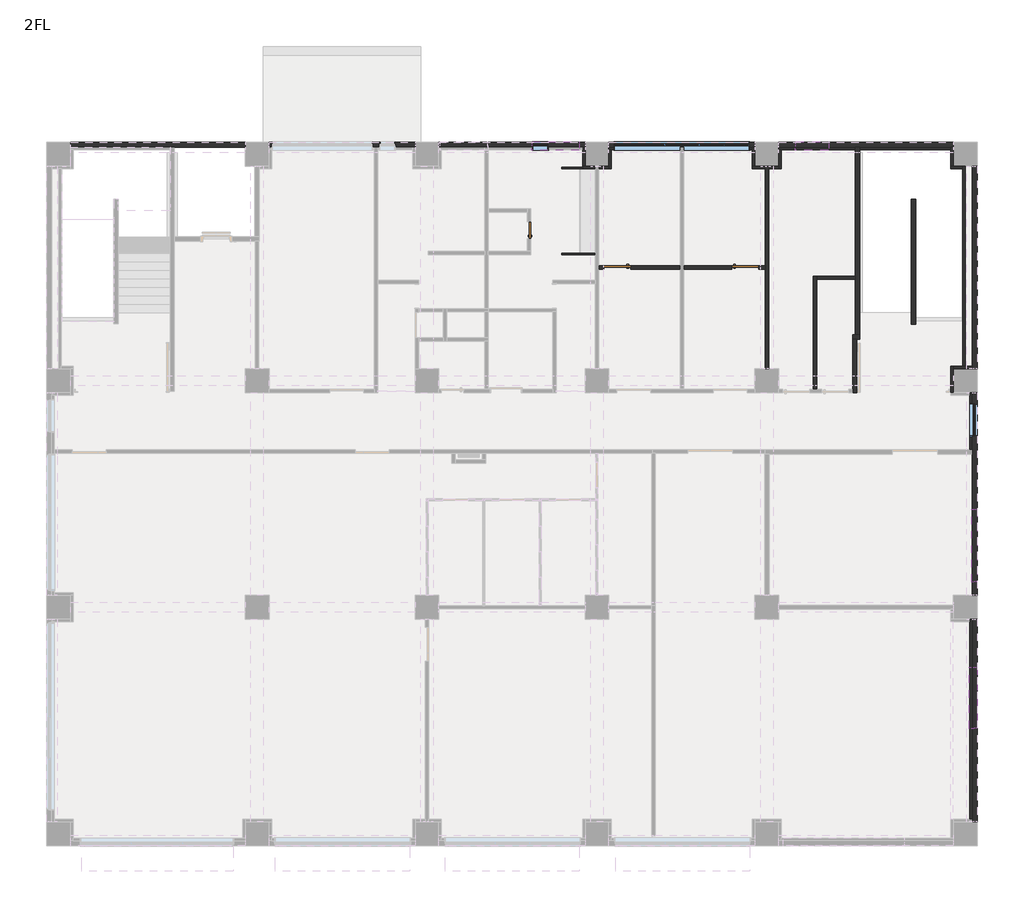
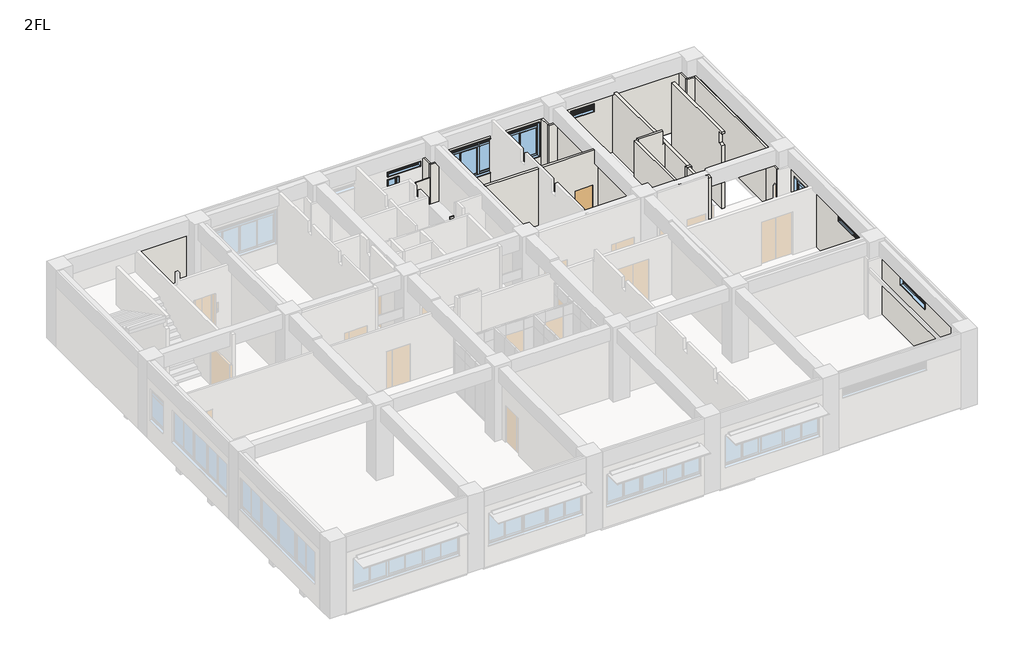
# One storey, part 4 of 7: 27 walls, 7 windows, 3 doors.
"""IFC4 building model written with IfcOpenShell, lengths in millimetres."""

from ifc_helpers import new_model, si_unit, frame, origin, place, context, project, spatial, polyline, outline, extrude, faceted_brep, transform, mapped, element, save
from components import door_0812e9ce, door_7e7a0efd, door_cb1f44da, ag_01_ca6aedc7, ag_04_25b0d088, ag_06_22dadb70, ag_07_7ad97628, aw4_4580bdda, aw6a_a2a86f3e, aw7_750fac0c

model = new_model("IFC4")

# Units and contexts
model_context = context("Model", 3, world=origin())
ifc_project = project(units=[si_unit("LENGTHUNIT", "METRE", prefix="MILLI")], contexts=[model_context])

# Site, building, storey
site = spatial("IfcSite", under=ifc_project)
building = spatial("IfcBuilding", under=site)
storey = spatial("IfcBuildingStorey", under=building, Name="2FL", Elevation=4100.0)

# Doors
placement = place(None, origin())
door_shape = door_0812e9ce(model_context)
element("IfcDoor", 1, ObjectType="営_片開き扉 : LD3 950*2000", at=placement, inside=storey, context=model_context, shape_type="MappedRepresentation", body=[
    mapped(door_shape, transform((19715.0, 20000.0, 4100.0), x_axis=(-1.0, 0.0, 0.0), y_axis=(0.0, -1.0, 0.0), z_axis=(0.0, 0.0, 1.0))),
])
door_2_shape = door_7e7a0efd(model_context)
element("IfcDoor", 2, ObjectType="営_片開き扉 : LD3 950*2000", at=placement, inside=storey, context=model_context, shape_type="MappedRepresentation", body=[
    mapped(door_2_shape, transform((24230.0, 20000.0, 4100.0), x_axis=(1.0, 0.0, 0.0), y_axis=(0.0, 1.0, 0.0), z_axis=(0.0, 0.0, 1.0))),
])
door_3_shape = door_cb1f44da(model_context)
element("IfcDoor", 3, ObjectType="営_片開き扉 : SD7 600*2000", at=placement, inside=storey, context=model_context, shape_type="MappedRepresentation", body=[
    mapped(door_3_shape, transform((16600.0, 21310.0, 4100.0), x_axis=(0.0, 1.0, 0.0), y_axis=(-1.0, 0.0, 0.0), z_axis=(0.0, 0.0, 1.0))),
])

# Walls
element("IfcWall", 4, ObjectType="(外壁)RC150+20", at=placement, inside=storey, context=model_context, shape_type="Brep", body=[
    faceted_brep([(420.0, 24250.0, 4000.0), (6580.0, 24250.0, 4000.0), (6580.0, 24250.0, 7250.0), (420.0, 24250.0, 7250.0), (6580.0, 24420.0, 4000.0), (420.0, 24420.0, 4000.0), (420.0, 24420.0, 7250.0), (6580.0, 24420.0, 7250.0)], [[[0, 1, 2, 3]], [[4, 5, 6, 7]], [[4, 1, 0, 5]], [[1, 4, 7, 2]], [[5, 0, 3, 6]], [[3, 2, 7, 6]]]),
    faceted_brep([(12580.0, 24250.0, 7250.0), (7420.0, 24250.0, 7250.0), (7420.0, 24250.0, 4000.0), (11200.0, 24250.0, 4000.0), (11200.0, 24250.0, 4090.0), (12580.0, 24250.0, 4090.0), (11310.0, 24250.0, 5165.0), (11310.0, 24250.0, 7020.0), (11890.0, 24250.0, 7020.0), (11890.0, 24250.0, 5165.0), (11090.0, 24250.0, 7020.0), (11090.0, 24250.0, 5165.0), (7510.0, 24250.0, 5165.0), (7510.0, 24250.0, 7020.0), (12580.0, 24420.0, 4000.0), (7420.0, 24420.0, 4000.0), (7420.0, 24420.0, 7250.0), (12580.0, 24420.0, 7250.0), (11340.0, 24420.0, 5075.0), (11860.0, 24420.0, 5075.0), (11860.0, 24420.0, 6995.0), (11340.0, 24420.0, 6995.0), (7540.0, 24420.0, 5075.0), (11060.0, 24420.0, 5075.0), (11060.0, 24420.0, 6995.0), (7540.0, 24420.0, 6995.0), (12580.0, 24335.0, 4000.0), (11200.0, 24335.0, 4000.0), (11310.0, 24290.0, 5165.0), (11310.0, 24290.0, 7020.0), (11890.0, 24290.0, 7020.0), (11890.0, 24290.0, 5165.0), (11880.0, 24290.0, 5165.0), (11320.0, 24290.0, 5165.0), (11320.0, 24290.0, 7015.0), (11880.0, 24290.0, 7015.0), (11320.0, 24290.0, 5095.0), (11320.0, 24360.0, 5084.2307692), (11320.0, 24360.0, 7015.0), (11880.0, 24290.0, 5095.0), (11880.0, 24360.0, 7015.0), (11880.0, 24360.0, 5084.2307692), (11860.0, 24360.0, 5084.2307692), (11340.0, 24360.0, 5084.2307692), (11340.0, 24360.0, 6995.0), (11860.0, 24360.0, 6995.0), (11090.0, 24290.0, 7020.0), (11090.0, 24290.0, 5165.0), (7510.0, 24290.0, 5165.0), (7510.0, 24290.0, 7020.0), (11080.0, 24290.0, 5165.0), (7520.0, 24290.0, 5165.0), (7520.0, 24290.0, 7015.0), (11080.0, 24290.0, 7015.0), (11080.0, 24360.0, 7015.0), (11080.0, 24360.0, 5084.2307692), (11080.0, 24290.0, 5095.0), (7520.0, 24290.0, 5095.0), (7520.0, 24360.0, 5084.2307692), (7520.0, 24360.0, 7015.0), (11060.0, 24360.0, 5084.2307692), (7540.0, 24360.0, 5084.2307692), (7540.0, 24360.0, 6995.0), (11060.0, 24360.0, 6995.0), (12580.0, 24335.0, 4090.0), (11200.0, 24335.0, 4090.0)], [[[0, 1, 2, 3, 4, 5], [6, 7, 8, 9], [10, 11, 12, 13]], [[14, 15, 16, 17], [18, 19, 20, 21], [22, 23, 24, 25]], [[2, 15, 14, 26, 27, 3]], [[28, 29, 7, 6]], [[30, 31, 9, 8]], [[32, 33, 28, 6, 9, 31]], [[29, 28, 33, 34, 35, 32, 31, 30]], [[29, 30, 8, 7]], [[34, 33, 36, 37, 38]], [[39, 32, 35, 40, 41]], [[39, 41, 42, 19, 18, 43, 37, 36]], [[38, 37, 43, 44, 45, 42, 41, 40]], [[34, 38, 40, 35]], [[32, 39, 36, 33]], [[44, 43, 18, 21]], [[19, 42, 45, 20]], [[44, 21, 20, 45]], [[46, 47, 11, 10]], [[48, 49, 13, 12]], [[11, 47, 50, 51, 48, 12]], [[47, 46, 49, 48, 51, 52, 53, 50]], [[46, 10, 13, 49]], [[50, 53, 54, 55, 56]], [[52, 51, 57, 58, 59]], [[56, 55, 60, 23, 22, 61, 58, 57]], [[55, 54, 59, 58, 61, 62, 63, 60]], [[53, 52, 59, 54]], [[51, 50, 56, 57]], [[23, 60, 63, 24]], [[61, 22, 25, 62]], [[63, 62, 25, 24]], [[15, 2, 1, 16]], [[14, 17, 0, 5, 64, 26]], [[1, 0, 17, 16]], [[4, 65, 64, 5]], [[65, 4, 3, 27]], [[64, 65, 27, 26]]]),
    faceted_brep([(18580.0, 24250.0, 7250.0), (13420.0, 24250.0, 7250.0), (13420.0, 24250.0, 4090.0), (18580.0, 24250.0, 4090.0), (18380.0, 24250.0, 7035.0), (18380.0, 24250.0, 6765.0), (16700.0, 24250.0, 6765.0), (16700.0, 24250.0, 7035.0), (15140.0, 24250.0, 7035.0), (15140.0, 24250.0, 6765.0), (13460.0, 24250.0, 6765.0), (13460.0, 24250.0, 7035.0), (16710.0, 24250.0, 5165.0), (16710.0, 24250.0, 6620.0), (17290.0, 24250.0, 6620.0), (17290.0, 24250.0, 5165.0), (18580.0, 24420.0, 4000.0), (13420.0, 24420.0, 4000.0), (13420.0, 24420.0, 7250.0), (18580.0, 24420.0, 7250.0), (16730.0, 24420.0, 6675.0), (18350.0, 24420.0, 6675.0), (18350.0, 24420.0, 7010.0), (16730.0, 24420.0, 7010.0), (13490.0, 24420.0, 6675.0), (15110.0, 24420.0, 6675.0), (15110.0, 24420.0, 7010.0), (13490.0, 24420.0, 7010.0), (16740.0, 24420.0, 5075.0), (17260.0, 24420.0, 5075.0), (17260.0, 24420.0, 6595.0), (16740.0, 24420.0, 6595.0), (18580.0, 24335.0, 4000.0), (13420.0, 24335.0, 4000.0), (18380.0, 24290.0, 7035.0), (18380.0, 24290.0, 6765.0), (16700.0, 24290.0, 6765.0), (16700.0, 24290.0, 7035.0), (18370.0, 24290.0, 6765.0), (16710.0, 24290.0, 6765.0), (16710.0, 24290.0, 7030.0), (18370.0, 24290.0, 7030.0), (18370.0, 24360.0, 7030.0), (18370.0, 24360.0, 6684.2307692), (18370.0, 24290.0, 6695.0), (16710.0, 24290.0, 6695.0), (16710.0, 24360.0, 6684.2307692), (16710.0, 24360.0, 7030.0), (18350.0, 24360.0, 6684.2307692), (16730.0, 24360.0, 6684.2307692), (16730.0, 24360.0, 7010.0), (18350.0, 24360.0, 7010.0), (15140.0, 24290.0, 7035.0), (15140.0, 24290.0, 6765.0), (13460.0, 24290.0, 6765.0), (13460.0, 24290.0, 7035.0), (15130.0, 24290.0, 6765.0), (13470.0, 24290.0, 6765.0), (13470.0, 24290.0, 7030.0), (15130.0, 24290.0, 7030.0), (15130.0, 24360.0, 7030.0), (15130.0, 24360.0, 6684.2307692), (15130.0, 24290.0, 6695.0), (13470.0, 24290.0, 6695.0), (13470.0, 24360.0, 6684.2307692), (13470.0, 24360.0, 7030.0), (15110.0, 24360.0, 6684.2307692), (13490.0, 24360.0, 6684.2307692), (13490.0, 24360.0, 7010.0), (15110.0, 24360.0, 7010.0), (16710.0, 24290.0, 5165.0), (16710.0, 24290.0, 6620.0), (17290.0, 24290.0, 6620.0), (17290.0, 24290.0, 5165.0), (17280.0, 24290.0, 5165.0), (16720.0, 24290.0, 5165.0), (16720.0, 24290.0, 6615.0), (17280.0, 24290.0, 6615.0), (16720.0, 24290.0, 5095.0), (16720.0, 24360.0, 5084.2307692), (16720.0, 24360.0, 6615.0), (17280.0, 24360.0, 6615.0), (17280.0, 24360.0, 5084.2307692), (17280.0, 24290.0, 5095.0), (17260.0, 24360.0, 5084.2307692), (16740.0, 24360.0, 5084.2307692), (16740.0, 24360.0, 6595.0), (17260.0, 24360.0, 6595.0), (13420.0, 24335.0, 4090.0), (18580.0, 24335.0, 4090.0)], [[[0, 1, 2, 3], [4, 5, 6, 7], [8, 9, 10, 11], [12, 13, 14, 15]], [[16, 17, 18, 19], [20, 21, 22, 23], [24, 25, 26, 27], [28, 29, 30, 31]], [[17, 16, 32, 33]], [[34, 35, 5, 4]], [[36, 37, 7, 6]], [[35, 38, 39, 36, 6, 5]], [[35, 34, 37, 36, 39, 40, 41, 38]], [[37, 34, 4, 7]], [[38, 41, 42, 43, 44]], [[40, 39, 45, 46, 47]], [[44, 43, 48, 21, 20, 49, 46, 45]], [[43, 42, 47, 46, 49, 50, 51, 48]], [[41, 40, 47, 42]], [[39, 38, 44, 45]], [[21, 48, 51, 22]], [[49, 20, 23, 50]], [[51, 50, 23, 22]], [[52, 53, 9, 8]], [[54, 55, 11, 10]], [[53, 56, 57, 54, 10, 9]], [[53, 52, 55, 54, 57, 58, 59, 56]], [[55, 52, 8, 11]], [[56, 59, 60, 61, 62]], [[58, 57, 63, 64, 65]], [[62, 61, 66, 25, 24, 67, 64, 63]], [[61, 60, 65, 64, 67, 68, 69, 66]], [[59, 58, 65, 60]], [[57, 56, 62, 63]], [[25, 66, 69, 26]], [[67, 24, 27, 68]], [[69, 68, 27, 26]], [[70, 71, 13, 12]], [[72, 73, 15, 14]], [[73, 74, 75, 70, 12, 15]], [[71, 70, 75, 76, 77, 74, 73, 72]], [[71, 72, 14, 13]], [[76, 75, 78, 79, 80]], [[74, 77, 81, 82, 83]], [[79, 78, 83, 82, 84, 29, 28, 85]], [[80, 79, 85, 86, 87, 84, 82, 81]], [[77, 76, 80, 81]], [[75, 74, 83, 78]], [[85, 28, 31, 86]], [[29, 84, 87, 30]], [[87, 86, 31, 30]], [[18, 17, 33, 88, 2, 1]], [[16, 19, 0, 3, 89, 32]], [[1, 0, 19, 18]], [[88, 89, 3, 2]], [[89, 88, 33, 32]]]),
    faceted_brep([(24580.0, 24250.0, 7250.0), (19420.0, 24250.0, 7250.0), (19420.0, 24250.0, 4090.0), (24580.0, 24250.0, 4090.0), (24410.0, 24250.0, 7020.0), (24410.0, 24250.0, 5165.0), (19590.0, 24250.0, 5165.0), (19590.0, 24250.0, 7020.0), (24580.0, 24420.0, 4000.0), (19420.0, 24420.0, 4000.0), (19420.0, 24420.0, 7250.0), (24580.0, 24420.0, 7250.0), (19620.0, 24420.0, 5075.0), (24380.0, 24420.0, 5075.0), (24380.0, 24420.0, 6995.0), (19620.0, 24420.0, 6995.0), (24580.0, 24335.0, 4000.0), (19420.0, 24335.0, 4000.0), (24410.0, 24290.0, 7020.0), (24410.0, 24290.0, 5165.0), (19590.0, 24290.0, 5165.0), (19590.0, 24290.0, 7020.0), (24400.0, 24290.0, 5165.0), (19600.0, 24290.0, 5165.0), (19600.0, 24290.0, 7015.0), (24400.0, 24290.0, 7015.0), (24400.0, 24360.0, 7015.0), (24400.0, 24360.0, 5084.2307692), (24400.0, 24290.0, 5095.0), (19600.0, 24290.0, 5095.0), (19600.0, 24360.0, 5084.2307692), (19600.0, 24360.0, 7015.0), (24380.0, 24360.0, 5084.2307692), (19620.0, 24360.0, 5084.2307692), (19620.0, 24360.0, 6995.0), (24380.0, 24360.0, 6995.0), (19420.0, 24335.0, 4090.0), (24580.0, 24335.0, 4090.0)], [[[0, 1, 2, 3], [4, 5, 6, 7]], [[8, 9, 10, 11], [12, 13, 14, 15]], [[9, 8, 16, 17]], [[18, 19, 5, 4]], [[20, 21, 7, 6]], [[5, 19, 22, 23, 20, 6]], [[19, 18, 21, 20, 23, 24, 25, 22]], [[18, 4, 7, 21]], [[22, 25, 26, 27, 28]], [[24, 23, 29, 30, 31]], [[28, 27, 32, 13, 12, 33, 30, 29]], [[27, 26, 31, 30, 33, 34, 35, 32]], [[25, 24, 31, 26]], [[23, 22, 28, 29]], [[13, 32, 35, 14]], [[33, 12, 15, 34]], [[35, 34, 15, 14]], [[10, 9, 17, 36, 2, 1]], [[8, 11, 0, 3, 37, 16]], [[1, 0, 11, 10]], [[36, 37, 3, 2]], [[37, 36, 17, 16]]]),
    faceted_brep([(31580.0, 24250.0, 7250.0), (25420.0, 24250.0, 7250.0), (25420.0, 24250.0, 4090.0), (28200.0, 24250.0, 4090.0), (28200.0, 24250.0, 4000.0), (31580.0, 24250.0, 4000.0), (27190.0, 24250.0, 7035.0), (27190.0, 24250.0, 6615.0), (26010.0, 24250.0, 6615.0), (26010.0, 24250.0, 7035.0), (31580.0, 24420.0, 4000.0), (25420.0, 24420.0, 4000.0), (25420.0, 24420.0, 7250.0), (31580.0, 24420.0, 7250.0), (26040.0, 24420.0, 6525.0), (27160.0, 24420.0, 6525.0), (27160.0, 24420.0, 7010.0), (26040.0, 24420.0, 7010.0), (28200.0, 24335.0, 4000.0), (25420.0, 24335.0, 4000.0), (27190.0, 24290.0, 7035.0), (27190.0, 24290.0, 6615.0), (26010.0, 24290.0, 6615.0), (26010.0, 24290.0, 7035.0), (27180.0, 24290.0, 6615.0), (26020.0, 24290.0, 6615.0), (26020.0, 24290.0, 7030.0), (27180.0, 24290.0, 7030.0), (27180.0, 24360.0, 7030.0), (27180.0, 24360.0, 6534.2307692), (27180.0, 24290.0, 6545.0), (26020.0, 24290.0, 6545.0), (26020.0, 24360.0, 6534.2307692), (26020.0, 24360.0, 7030.0), (27160.0, 24360.0, 6534.2307692), (26040.0, 24360.0, 6534.2307692), (26040.0, 24360.0, 7010.0), (27160.0, 24360.0, 7010.0), (25420.0, 24335.0, 4090.0), (28200.0, 24335.0, 4090.0)], [[[0, 1, 2, 3, 4, 5], [6, 7, 8, 9]], [[10, 11, 12, 13], [14, 15, 16, 17]], [[11, 10, 5, 4, 18, 19]], [[20, 21, 7, 6]], [[22, 23, 9, 8]], [[7, 21, 24, 25, 22, 8]], [[21, 20, 23, 22, 25, 26, 27, 24]], [[20, 6, 9, 23]], [[24, 27, 28, 29, 30]], [[26, 25, 31, 32, 33]], [[30, 29, 34, 15, 14, 35, 32, 31]], [[29, 28, 33, 32, 35, 36, 37, 34]], [[27, 26, 33, 28]], [[25, 24, 30, 31]], [[15, 34, 37, 16]], [[35, 14, 17, 36]], [[37, 36, 17, 16]], [[12, 11, 19, 38, 2, 1]], [[5, 10, 13, 0]], [[1, 0, 13, 12]], [[38, 39, 3, 2]], [[3, 39, 18, 4]], [[39, 38, 19, 18]]]),
])
element("IfcWall", 5, ObjectType="(外壁)RC150+20", at=placement, inside=storey, context=model_context, shape_type="Brep", body=[
    faceted_brep([(32250.0, 420.0, 7200.0), (32250.0, 7580.0, 7200.0), (32250.0, 7580.0, 4090.0), (32250.0, 420.0, 4090.0), (32250.0, 3710.0, 7185.0), (32250.0, 3710.0, 6665.0), (32250.0, 5890.0, 6665.0), (32250.0, 5890.0, 7185.0), (32420.0, 7580.0, 7200.0), (32420.0, 420.0, 7200.0), (32420.0, 420.0, 4000.0), (32420.0, 7580.0, 4000.0), (32420.0, 5860.0, 6575.0), (32420.0, 3740.0, 6575.0), (32420.0, 3740.0, 7160.0), (32420.0, 5860.0, 7160.0), (32325.0, 420.0, 4000.0), (32325.0, 7580.0, 4000.0), (32325.0, 420.0, 4090.0), (32325.0, 7580.0, 4090.0), (32290.0, 3710.0, 7185.0), (32290.0, 3710.0, 6665.0), (32290.0, 5890.0, 6665.0), (32290.0, 5890.0, 7185.0), (32290.0, 3720.0, 6665.0), (32290.0, 5880.0, 6665.0), (32290.0, 5880.0, 7180.0), (32290.0, 3720.0, 7180.0), (32360.0, 3720.0, 7180.0), (32360.0, 3720.0, 6584.2307692), (32290.0, 3720.0, 6595.0), (32290.0, 5880.0, 6595.0), (32360.0, 5880.0, 6584.2307692), (32360.0, 5880.0, 7180.0), (32360.0, 3740.0, 6584.2307692), (32360.0, 5860.0, 6584.2307692), (32360.0, 5860.0, 7160.0), (32360.0, 3740.0, 7160.0)], [[[0, 1, 2, 3], [4, 5, 6, 7]], [[8, 9, 10, 11], [12, 13, 14, 15]], [[11, 10, 16, 17]], [[10, 9, 0, 3, 18, 16]], [[8, 11, 17, 19, 2, 1]], [[1, 0, 9, 8]], [[19, 18, 3, 2]], [[18, 19, 17, 16]], [[20, 21, 5, 4]], [[22, 23, 7, 6]], [[5, 21, 24, 25, 22, 6]], [[21, 20, 23, 22, 25, 26, 27, 24]], [[20, 4, 7, 23]], [[24, 27, 28, 29, 30]], [[26, 25, 31, 32, 33]], [[30, 29, 34, 13, 12, 35, 32, 31]], [[29, 28, 33, 32, 35, 36, 37, 34]], [[27, 26, 33, 28]], [[25, 24, 30, 31]], [[13, 34, 37, 14]], [[35, 12, 15, 36]], [[37, 36, 15, 14]]]),
    faceted_brep([(32250.0, 8420.0, 7200.0), (32250.0, 15580.0, 7200.0), (32250.0, 15580.0, 4090.0), (32250.0, 8420.0, 4090.0), (32250.0, 14027.5, 6820.0), (32250.0, 14027.5, 5165.0), (32250.0, 15207.5, 5165.0), (32250.0, 15207.5, 6820.0), (32250.0, 8890.0, 7185.0), (32250.0, 8890.0, 6665.0), (32250.0, 11470.0, 6665.0), (32250.0, 11470.0, 7185.0), (32420.0, 15580.0, 7200.0), (32420.0, 8420.0, 7200.0), (32420.0, 8420.0, 4000.0), (32420.0, 15580.0, 4000.0), (32420.0, 15177.5, 5075.0), (32420.0, 14057.5, 5075.0), (32420.0, 14057.5, 6795.0), (32420.0, 15177.5, 6795.0), (32420.0, 11440.0, 6575.0), (32420.0, 8920.0, 6575.0), (32420.0, 8920.0, 7160.0), (32420.0, 11440.0, 7160.0), (32325.0, 8420.0, 4000.0), (32325.0, 15580.0, 4000.0), (32290.0, 14027.5, 6820.0), (32290.0, 14027.5, 5165.0), (32290.0, 15207.5, 5165.0), (32290.0, 15207.5, 6820.0), (32290.0, 14037.5, 5165.0), (32290.0, 15197.5, 5165.0), (32290.0, 15197.5, 6815.0), (32290.0, 14037.5, 6815.0), (32360.0, 14037.5, 6815.0), (32360.0, 14037.5, 5084.2307692), (32290.0, 14037.5, 5095.0), (32290.0, 15197.5, 5095.0), (32360.0, 15197.5, 5084.2307692), (32360.0, 15197.5, 6815.0), (32360.0, 14057.5, 5084.2307692), (32360.0, 15177.5, 5084.2307692), (32360.0, 15177.5, 6795.0), (32360.0, 14057.5, 6795.0), (32325.0, 8420.0, 4090.0), (32325.0, 15580.0, 4090.0), (32290.0, 8890.0, 7185.0), (32290.0, 8890.0, 6665.0), (32290.0, 11470.0, 6665.0), (32290.0, 11470.0, 7185.0), (32290.0, 8900.0, 6665.0), (32290.0, 11460.0, 6665.0), (32290.0, 11460.0, 7180.0), (32290.0, 8900.0, 7180.0), (32360.0, 8900.0, 7180.0), (32360.0, 8900.0, 6584.2307692), (32290.0, 8900.0, 6595.0), (32290.0, 11460.0, 6595.0), (32360.0, 11460.0, 6584.2307692), (32360.0, 11460.0, 7180.0), (32360.0, 8920.0, 6584.2307692), (32360.0, 11440.0, 6584.2307692), (32360.0, 11440.0, 7160.0), (32360.0, 8920.0, 7160.0)], [[[0, 1, 2, 3], [4, 5, 6, 7], [8, 9, 10, 11]], [[12, 13, 14, 15], [16, 17, 18, 19], [20, 21, 22, 23]], [[15, 14, 24, 25]], [[26, 27, 5, 4]], [[28, 29, 7, 6]], [[5, 27, 30, 31, 28, 6]], [[27, 26, 29, 28, 31, 32, 33, 30]], [[26, 4, 7, 29]], [[30, 33, 34, 35, 36]], [[32, 31, 37, 38, 39]], [[36, 35, 40, 17, 16, 41, 38, 37]], [[35, 34, 39, 38, 41, 42, 43, 40]], [[33, 32, 39, 34]], [[31, 30, 36, 37]], [[17, 40, 43, 18]], [[41, 16, 19, 42]], [[43, 42, 19, 18]], [[14, 13, 0, 3, 44, 24]], [[12, 15, 25, 45, 2, 1]], [[1, 0, 13, 12]], [[45, 44, 3, 2]], [[44, 45, 25, 24]], [[46, 47, 9, 8]], [[48, 49, 11, 10]], [[9, 47, 50, 51, 48, 10]], [[47, 46, 49, 48, 51, 52, 53, 50]], [[46, 8, 11, 49]], [[50, 53, 54, 55, 56]], [[52, 51, 57, 58, 59]], [[56, 55, 60, 21, 20, 61, 58, 57]], [[55, 54, 59, 58, 61, 62, 63, 60]], [[53, 52, 59, 54]], [[51, 50, 56, 57]], [[21, 60, 63, 22]], [[61, 20, 23, 62]], [[63, 62, 23, 22]]]),
    faceted_brep([(32250.0, 16420.0, 7200.0), (32250.0, 23580.0, 7200.0), (32250.0, 23580.0, 4090.0), (32250.0, 16420.0, 4090.0), (32420.0, 23580.0, 7200.0), (32420.0, 16420.0, 7200.0), (32420.0, 16420.0, 4000.0), (32420.0, 23580.0, 4000.0), (32325.0, 16420.0, 4000.0), (32325.0, 16669.8819845, 4000.0), (32325.0, 23580.0, 4000.0), (32325.0, 16420.0, 4090.0), (32325.0, 23580.0, 4090.0), (32325.0, 16669.8819845, 4090.0)], [[[0, 1, 2, 3]], [[4, 5, 6, 7]], [[7, 6, 8, 9, 10]], [[6, 5, 0, 3, 11, 8]], [[4, 7, 10, 12, 2, 1]], [[1, 0, 5, 4]], [[12, 13, 11, 3, 2]], [[11, 13, 9, 8]], [[13, 12, 10, 9]]]),
])
element("IfcWall", 6, ObjectType="(内壁)W3", at=placement, inside=storey, context=model_context, shape_type="Brep", body=[
    faceted_brep([(25060.0, 16420.0, 4100.0), (25060.0, 23490.0, 4100.0), (25060.0, 23580.0, 4100.0), (25060.0, 23580.0, 7200.0), (25060.0, 23490.0, 7200.0), (25060.0, 16420.0, 7200.0), (24940.0, 23580.0, 4100.0), (24940.0, 23490.0, 4100.0), (24940.0, 20060.0, 4100.0), (24940.0, 19940.0, 4100.0), (24940.0, 16420.0, 4100.0), (24940.0, 16420.0, 7200.0), (24940.0, 19940.0, 7200.0), (24940.0, 20060.0, 7200.0), (24940.0, 23490.0, 7200.0), (24940.0, 23580.0, 7200.0)], [[[0, 1, 2, 3, 4, 5]], [[6, 7, 8, 9, 10, 11, 12, 13, 14, 15]], [[0, 10, 9, 8, 7, 6, 2, 1]], [[10, 0, 5, 11]], [[2, 6, 15, 3]], [[5, 4, 3, 15, 14, 13, 12, 11]]]),
])
element("IfcWall", 7, ObjectType="(内壁)W3", at=placement, inside=storey, context=model_context, shape_type="SweptSolid", body=[
    extrude(outline(polyline([(4100.0, 21940.0), (7950.0, 21940.0), (7950.0, 19225.0), (7200.0, 19225.0), (7200.0, 19060.0), (4100.0, 19060.0), (4100.0, 19240.0), (6100.0, 19240.0), (6100.0, 20190.0), (4100.0, 20190.0), (4100.0, 21940.0)])), frame((0.0, 19940.0, 0.0), z_axis=(0.0, 1.0, 0.0), x_axis=(0.0, 0.0, 1.0)), (0.0, 0.0, 1.0), 120.0),
    extrude(outline(polyline([(7950.0, 22060.0), (4100.0, 22060.0), (4100.0, 23755.0), (6100.0, 23755.0), (6100.0, 24705.0), (4100.0, 24705.0), (4100.0, 24940.0), (7200.0, 24940.0), (7200.0, 24775.0), (7950.0, 24775.0), (7950.0, 22060.0)])), frame((0.0, 19940.0, 0.0), z_axis=(0.0, 1.0, 0.0), x_axis=(0.0, 0.0, 1.0)), (0.0, 0.0, 1.0), 120.0),
])
element("IfcWall", 8, ObjectType="(内壁)W3", at=placement, inside=storey, context=model_context, shape_type="Brep", body=[
    faceted_brep([(26640.0, 19695.0, 4100.0), (26640.0, 15700.0, 4100.0), (26640.0, 15700.0, 7950.0), (26640.0, 15825.0, 7950.0), (26640.0, 15825.0, 7250.0), (26640.0, 16175.0, 7250.0), (26640.0, 16175.0, 7950.0), (26640.0, 19695.0, 7950.0), (26760.0, 15700.0, 4100.0), (26760.0, 19575.0, 4100.0), (26760.0, 19695.0, 4100.0), (26760.0, 19695.0, 7950.0), (26760.0, 16175.0, 7950.0), (26760.0, 16175.0, 7250.0), (26760.0, 15825.0, 7250.0), (26760.0, 15825.0, 7950.0), (26760.0, 15700.0, 7950.0)], [[[0, 1, 2, 3, 4, 5, 6, 7]], [[8, 9, 10, 11, 12, 13, 14, 15, 16]], [[1, 0, 10, 9, 8]], [[11, 7, 6, 12]], [[2, 16, 15, 3]], [[0, 7, 11, 10]], [[2, 1, 8, 16]], [[14, 4, 3, 15]], [[4, 14, 13, 5]], [[5, 13, 12, 6]]]),
])
element("IfcWall", 9, ObjectType="(内壁)W3", at=placement, inside=storey, context=model_context, shape_type="Brep", body=[
    faceted_brep([(26760.0, 19575.0, 4100.0), (28125.0, 19575.0, 4100.0), (28125.0, 19575.0, 7350.0), (28024.0, 19575.0, 7350.0), (28024.0, 19575.0, 8040.0), (26760.0, 19575.0, 8040.0), (28125.0, 19695.0, 4100.0), (26760.0, 19695.0, 4100.0), (26760.0, 19695.0, 7950.0), (26760.0, 19695.0, 8040.0), (28024.0, 19695.0, 8040.0), (28024.0, 19695.0, 7350.0), (28125.0, 19695.0, 7350.0)], [[[0, 1, 2, 3, 4, 5]], [[6, 7, 8, 9, 10, 11, 12]], [[1, 0, 7, 6]], [[9, 5, 4, 10]], [[0, 5, 9, 8, 7]], [[1, 6, 12, 2]], [[11, 3, 2, 12]], [[3, 11, 10, 4]]]),
])
element("IfcWall", 10, ObjectType="(内壁)150_RC", at=placement, inside=storey, context=model_context, shape_type="Brep", body=[
    faceted_brep([(28175.0, 15580.0, 4100.0), (28175.0, 17465.0, 4100.0), (28175.0, 17465.0, 7350.0), (28175.0, 16175.0, 7350.0), (28175.0, 16175.0, 7250.0), (28175.0, 15825.0, 7250.0), (28175.0, 15825.0, 7350.0), (28175.0, 15825.0, 7950.0), (28175.0, 15580.0, 7950.0), (28025.0, 17465.0, 4100.0), (28025.0, 15700.0, 4100.0), (28025.0, 15580.0, 4100.0), (28025.0, 15580.0, 7950.0), (28025.0, 15825.0, 7950.0), (28025.0, 15825.0, 7350.0), (28025.0, 15825.0, 7250.0), (28025.0, 16175.0, 7250.0), (28025.0, 16175.0, 7350.0), (28025.0, 17465.0, 7350.0)], [[[0, 1, 2, 3, 4, 5, 6, 7, 8]], [[9, 10, 11, 12, 13, 14, 15, 16, 17, 18]], [[1, 0, 11, 10, 9]], [[8, 7, 13, 12]], [[1, 9, 18, 2]], [[5, 15, 14, 13, 7, 6]], [[15, 5, 4, 16]], [[16, 4, 3, 17]], [[3, 2, 18, 17]], [[0, 8, 12, 11]]]),
])
element("IfcWall", 11, ObjectType="(内壁)150_RC", at=placement, inside=storey, context=model_context, shape_type="Brep", body=[
    faceted_brep([(28025.0, 17465.0, 4100.0), (28175.0, 17465.0, 4100.0), (28275.0, 17465.0, 4100.0), (28275.0, 17465.0, 7350.0), (28175.0, 17465.0, 7350.0), (28025.0, 17465.0, 7350.0), (28275.0, 17615.0, 4100.0), (28125.0, 17615.0, 4100.0), (28025.0, 17615.0, 4100.0), (28025.0, 17615.0, 7350.0), (28125.0, 17615.0, 7350.0), (28275.0, 17615.0, 7350.0)], [[[0, 1, 2, 3, 4, 5]], [[6, 7, 8, 9, 10, 11]], [[2, 1, 0, 8, 7, 6]], [[8, 0, 5, 9]], [[2, 6, 11, 3]], [[5, 4, 3, 11, 10, 9]]]),
])
element("IfcWall", 12, ObjectType="(内壁)150_RC", at=placement, inside=storey, context=model_context, shape_type="Brep", body=[
    faceted_brep([(28275.0, 17615.0, 4100.0), (28275.0, 24250.0, 4100.0), (28275.0, 24250.0, 7250.0), (28275.0, 24050.0, 7250.0), (28275.0, 24050.0, 7350.0), (28275.0, 17615.0, 7350.0), (28125.0, 24250.0, 4100.0), (28125.0, 19695.0, 4100.0), (28125.0, 19575.0, 4100.0), (28125.0, 17615.0, 4100.0), (28125.0, 17615.0, 7350.0), (28125.0, 19575.0, 7350.0), (28125.0, 19695.0, 7350.0), (28125.0, 24050.0, 7350.0), (28125.0, 24050.0, 7250.0), (28125.0, 24250.0, 7250.0)], [[[0, 1, 2, 3, 4, 5]], [[6, 7, 8, 9, 10, 11, 12, 13, 14, 15]], [[1, 0, 9, 8, 7, 6]], [[10, 5, 4, 13, 12, 11]], [[0, 5, 10, 9]], [[1, 6, 15, 2]], [[3, 14, 13, 4]], [[14, 3, 2, 15]]]),
])
element("IfcWall", 13, ObjectType="(内壁)150_RC", at=placement, inside=storey, context=model_context, shape_type="Brep", body=[
    faceted_brep([(30105.0, 22410.0, 4100.0), (30105.0, 18000.0, 4100.0), (30105.0, 18000.0, 7500.0), (30105.0, 18225.0, 7500.0), (30105.0, 18225.0, 8040.0), (30105.0, 18225.0, 8100.0), (30105.0, 18005.0, 8100.0), (30105.0, 18000.0, 8100.0), (30105.0, 18000.0, 8200.0), (30105.0, 22410.0, 8200.0), (30255.0, 18000.0, 4100.0), (30255.0, 22410.0, 4100.0), (30255.0, 22410.0, 8200.0), (30255.0, 18000.0, 8200.0), (30255.0, 18000.0, 8100.0), (30255.0, 18005.0, 8100.0), (30255.0, 18100.0, 8100.0), (30255.0, 18225.0, 8100.0), (30255.0, 18225.0, 7500.0), (30255.0, 18000.0, 7500.0)], [[[0, 1, 2, 3, 4, 5, 6, 7, 8, 9]], [[10, 11, 12, 13, 14, 15, 16, 17, 18, 19]], [[1, 0, 11, 10]], [[1, 10, 19, 2]], [[13, 8, 7, 14]], [[9, 8, 13, 12]], [[0, 9, 12, 11]], [[18, 3, 2, 19]], [[3, 18, 17, 5, 4]], [[5, 17, 16, 15, 14, 7, 6]]]),
])
element("IfcWall", 14, ObjectType="(内壁)ブース壁", at=placement, inside=storey, context=model_context, shape_type="SweptSolid", body=[
    extrude(outline(polyline([(17760.0, 20500.0), (18940.0, 20500.0), (18940.0, 20450.0), (17760.0, 20450.0), (17760.0, 20500.0)])), frame((0.0, 0.0, 4100.0), z_axis=(0.0, 0.0, 1.0), x_axis=(1.0, 0.0, 0.0)), (0.0, 0.0, 1.0), 2400.0),
])
element("IfcWall", 15, ObjectType="(内壁)ブース壁", at=placement, inside=storey, context=model_context, shape_type="SweptSolid", body=[
    extrude(outline(polyline([(17750.0, 23540.0), (18490.0, 23540.0), (18490.0, 23490.0), (17750.0, 23490.0), (17750.0, 23540.0)])), frame((0.0, 0.0, 4100.0), z_axis=(0.0, 0.0, 1.0), x_axis=(1.0, 0.0, 0.0)), (0.0, 0.0, 1.0), 2400.0),
])
element("IfcWall", 16, ObjectType="(内壁)W5", at=placement, inside=storey, context=model_context, shape_type="Brep", body=[
    faceted_brep([(32250.0, 13560.0, 4100.0), (32250.0, 15580.0, 4100.0), (32250.0, 15580.0, 7200.0), (32250.0, 13560.0, 7200.0), (32250.0, 14027.5, 5165.0), (32250.0, 14027.5, 6820.0), (32250.0, 15207.5, 6820.0), (32250.0, 15207.5, 5165.0), (32160.0, 15580.0, 4100.0), (32160.0, 15490.0, 4100.0), (32160.0, 13560.0, 4100.0), (32160.0, 13560.0, 7200.0), (32160.0, 15490.0, 7200.0), (32160.0, 15580.0, 7200.0), (32160.0, 14027.5, 6820.0), (32160.0, 14027.5, 5165.0), (32160.0, 15207.5, 5165.0), (32160.0, 15207.5, 6820.0)], [[[0, 1, 2, 3], [4, 5, 6, 7]], [[8, 9, 10, 11, 12, 13], [14, 15, 16, 17]], [[1, 0, 10, 9, 8]], [[3, 2, 13, 12, 11]], [[0, 3, 11, 10]], [[2, 1, 8, 13]], [[14, 5, 4, 15]], [[16, 7, 6, 17]], [[15, 4, 7, 16]], [[5, 14, 17, 6]]]),
])
element("IfcWall", 17, ObjectType="(内壁)W5", at=placement, inside=storey, context=model_context, shape_type="Brep", body=[
    faceted_brep([(31580.0, 15580.0, 4100.0), (31580.0, 16420.0, 4100.0), (31580.0, 16510.0, 4100.0), (31580.0, 16510.0, 7200.0), (31580.0, 16420.0, 7200.0), (31580.0, 15580.0, 7200.0), (31490.0, 15580.0, 4100.0), (31490.0, 15580.0, 7200.0), (31490.0, 16510.0, 7200.0), (31490.0, 16510.0, 4100.0)], [[[0, 1, 2, 3, 4, 5]], [[6, 7, 8, 9]], [[2, 1, 0, 6, 9]], [[5, 4, 3, 8, 7]], [[0, 5, 7, 6]], [[3, 2, 9, 8]]]),
])
element("IfcWall", 18, ObjectType="(内壁)W5", at=placement, inside=storey, context=model_context, shape_type="Brep", body=[
    faceted_brep([(31580.0, 16420.0, 4100.0), (32250.0, 16420.0, 4100.0), (32250.0, 16420.0, 7200.0), (31580.0, 16420.0, 7200.0), (31580.0, 16510.0, 4100.0), (31580.0, 16510.0, 7200.0), (31919.7329181, 16510.0, 7200.0), (32009.7329181, 16510.0, 7200.0), (32250.0, 16510.0, 7200.0), (32250.0, 16510.0, 4100.0), (32009.7329181, 16510.0, 4100.0), (31919.7329181, 16510.0, 4100.0)], [[[0, 1, 2, 3]], [[4, 5, 6, 7, 8, 9, 10, 11]], [[1, 0, 4, 11, 10, 9]], [[3, 2, 8, 7, 6, 5]], [[0, 3, 5, 4]], [[2, 1, 9, 8]]]),
])
element("IfcWall", 19, ObjectType="(内壁)W5", at=placement, inside=storey, context=model_context, shape_type="Brep", body=[
    faceted_brep([(32009.7329181, 16510.0, 4100.0), (32009.7329181, 23580.0, 4100.0), (32009.7329181, 23580.0, 7200.0), (32009.7329181, 16510.0, 7200.0), (31919.7329181, 16510.0, 4100.0), (31919.7329181, 16510.0, 7200.0), (31919.7329181, 23490.0, 7200.0), (31919.7329181, 23580.0, 7200.0), (31919.7329181, 23580.0, 4100.0), (31919.7329181, 23490.0, 4100.0)], [[[0, 1, 2, 3]], [[4, 5, 6, 7, 8, 9]], [[1, 0, 4, 9, 8]], [[3, 2, 7, 6, 5]], [[0, 3, 5, 4]], [[2, 1, 8, 7]]]),
])
element("IfcWall", 20, ObjectType="(内壁)W5", at=placement, inside=storey, context=model_context, shape_type="Brep", body=[
    faceted_brep([(31919.7329181, 23580.0, 4100.0), (31580.0, 23580.0, 4100.0), (31490.0, 23580.0, 4100.0), (31490.0, 23580.0, 7200.0), (31580.0, 23580.0, 7200.0), (31919.7329181, 23580.0, 7200.0), (31919.7329181, 23490.0, 4100.0), (31919.7329181, 23490.0, 7200.0), (31490.0, 23490.0, 7200.0), (31490.0, 23490.0, 4100.0)], [[[0, 1, 2, 3, 4, 5]], [[6, 7, 8, 9]], [[2, 1, 0, 6, 9]], [[5, 4, 3, 8, 7]], [[0, 5, 7, 6]], [[3, 2, 9, 8]]]),
])
element("IfcWall", 21, ObjectType="(内壁)W5", at=placement, inside=storey, context=model_context, shape_type="Brep", body=[
    faceted_brep([(31580.0, 23580.0, 4100.0), (31580.0, 24250.0, 4100.0), (31580.0, 24250.0, 7200.0), (31580.0, 23580.0, 7200.0), (31490.0, 23580.0, 4100.0), (31490.0, 23580.0, 7200.0), (31490.0, 24250.0, 7200.0), (31490.0, 24250.0, 4100.0), (31490.0, 24160.0, 4100.0)], [[[0, 1, 2, 3]], [[4, 5, 6, 7, 8]], [[1, 0, 4, 8, 7]], [[3, 2, 6, 5]], [[0, 3, 5, 4]], [[2, 1, 7, 6]]]),
])
element("IfcWall", 22, ObjectType="(内壁)W5", at=placement, inside=storey, context=model_context, shape_type="Brep", body=[
    faceted_brep([(31490.0, 24250.0, 4100.0), (25420.0, 24250.0, 4100.0), (25420.0, 24250.0, 7250.0), (31490.0, 24250.0, 7250.0), (31490.0, 24250.0, 7200.0), (27190.0, 24250.0, 6615.0), (27190.0, 24250.0, 7035.0), (26010.0, 24250.0, 7035.0), (26010.0, 24250.0, 6615.0), (25420.0, 24160.0, 4100.0), (25510.0, 24160.0, 4100.0), (31490.0, 24160.0, 4100.0), (31490.0, 24160.0, 7250.0), (25420.0, 24160.0, 7250.0), (25420.0, 24160.0, 7200.0), (27190.0, 24160.0, 7035.0), (27190.0, 24160.0, 6615.0), (26010.0, 24160.0, 6615.0), (26010.0, 24160.0, 7035.0)], [[[0, 1, 2, 3, 4], [5, 6, 7, 8]], [[9, 10, 11, 12, 13, 14], [15, 16, 17, 18]], [[1, 0, 11, 10, 9]], [[3, 2, 13, 12]], [[0, 4, 3, 12, 11]], [[2, 1, 9, 14, 13]], [[15, 6, 5, 16]], [[17, 8, 7, 18]], [[16, 5, 8, 17]], [[6, 15, 18, 7]]]),
])
element("IfcWall", 23, ObjectType="(内壁)W5", at=placement, inside=storey, context=model_context, shape_type="Brep", body=[
    faceted_brep([(25420.0, 24160.0, 4100.0), (25420.0, 23580.0, 4100.0), (25420.0, 23490.0, 4100.0), (25420.0, 23490.0, 7200.0), (25420.0, 23580.0, 7200.0), (25420.0, 24160.0, 7200.0), (25510.0, 24160.0, 4100.0), (25510.0, 24160.0, 7200.0), (25510.0, 23490.0, 7200.0), (25510.0, 23490.0, 4100.0)], [[[0, 1, 2, 3, 4, 5]], [[6, 7, 8, 9]], [[2, 1, 0, 6, 9]], [[5, 4, 3, 8, 7]], [[0, 5, 7, 6]], [[3, 2, 9, 8]]]),
])
element("IfcWall", 24, ObjectType="(内壁)W5", at=placement, inside=storey, context=model_context, shape_type="Brep", body=[
    faceted_brep([(25420.0, 23580.0, 7200.0), (25420.0, 23580.0, 4100.0), (25060.0, 23580.0, 4100.0), (25060.0, 23580.0, 7200.0), (25420.0, 23490.0, 4100.0), (25420.0, 23490.0, 7200.0), (25060.0, 23490.0, 7200.0), (25060.0, 23490.0, 4100.0)], [[[0, 1, 2, 3]], [[4, 5, 6, 7]], [[1, 4, 7, 2]], [[5, 0, 3, 6]], [[1, 0, 5, 4]], [[3, 2, 7, 6]]]),
    faceted_brep([(24490.0, 23580.0, 4100.0), (24490.0, 23580.0, 7200.0), (24580.0, 23580.0, 7200.0), (24940.0, 23580.0, 7200.0), (24940.0, 23580.0, 4100.0), (24580.0, 23580.0, 4100.0), (24490.0, 23490.0, 7200.0), (24490.0, 23490.0, 4100.0), (24940.0, 23490.0, 4100.0), (24940.0, 23490.0, 7200.0)], [[[0, 1, 2, 3, 4, 5]], [[6, 7, 8, 9]], [[7, 0, 5, 4, 8]], [[1, 6, 9, 3, 2]], [[1, 0, 7, 6]], [[4, 3, 9, 8]]]),
])
element("IfcWall", 25, ObjectType="(内壁)W5", at=placement, inside=storey, context=model_context, shape_type="Brep", body=[
    faceted_brep([(24580.0, 23580.0, 4100.0), (24580.0, 24250.0, 4100.0), (24580.0, 24250.0, 7200.0), (24580.0, 23580.0, 7200.0), (24490.0, 23580.0, 4100.0), (24490.0, 23580.0, 7200.0), (24490.0, 24160.0, 7200.0), (24490.0, 24250.0, 7200.0), (24490.0, 24250.0, 4100.0), (24490.0, 24160.0, 4100.0)], [[[0, 1, 2, 3]], [[4, 5, 6, 7, 8, 9]], [[1, 0, 4, 9, 8]], [[3, 2, 7, 6, 5]], [[0, 3, 5, 4]], [[2, 1, 8, 7]]]),
])
element("IfcWall", 26, ObjectType="(内壁)W5", at=placement, inside=storey, context=model_context, shape_type="Brep", body=[
    faceted_brep([(24490.0, 24250.0, 4100.0), (19420.0, 24250.0, 4100.0), (19420.0, 24250.0, 7200.0), (24490.0, 24250.0, 7200.0), (24410.0, 24250.0, 5165.0), (24410.0, 24250.0, 7020.0), (19590.0, 24250.0, 7020.0), (19590.0, 24250.0, 5165.0), (19420.0, 24160.0, 4100.0), (19510.0, 24160.0, 4100.0), (24490.0, 24160.0, 4100.0), (24490.0, 24160.0, 7200.0), (19510.0, 24160.0, 7200.0), (19420.0, 24160.0, 7200.0), (24410.0, 24160.0, 7020.0), (24410.0, 24160.0, 5165.0), (19590.0, 24160.0, 5165.0), (19590.0, 24160.0, 7020.0)], [[[0, 1, 2, 3], [4, 5, 6, 7]], [[8, 9, 10, 11, 12, 13], [14, 15, 16, 17]], [[1, 0, 10, 9, 8]], [[3, 2, 13, 12, 11]], [[0, 3, 11, 10]], [[2, 1, 8, 13]], [[14, 5, 4, 15]], [[16, 7, 6, 17]], [[15, 4, 7, 16]], [[5, 14, 17, 6]]]),
])
element("IfcWall", 27, ObjectType="(内壁)W5", at=placement, inside=storey, context=model_context, shape_type="Brep", body=[
    faceted_brep([(19420.0, 24160.0, 4100.0), (19420.0, 23580.0, 4100.0), (19420.0, 23490.0, 4100.0), (19420.0, 23490.0, 7200.0), (19420.0, 23580.0, 7200.0), (19420.0, 24160.0, 7200.0), (19510.0, 24160.0, 4100.0), (19510.0, 24160.0, 7200.0), (19510.0, 23490.0, 7200.0), (19510.0, 23490.0, 4100.0)], [[[0, 1, 2, 3, 4, 5]], [[6, 7, 8, 9]], [[2, 1, 0, 6, 9]], [[5, 4, 3, 8, 7]], [[0, 5, 7, 6]], [[3, 2, 9, 8]]]),
])
element("IfcWall", 28, ObjectType="(内壁)W5", at=placement, inside=storey, context=model_context, shape_type="Brep", body=[
    faceted_brep([(19420.0, 23580.0, 7200.0), (19420.0, 23580.0, 4100.0), (19060.0, 23580.0, 4100.0), (19060.0, 23580.0, 7200.0), (19420.0, 23490.0, 4100.0), (19420.0, 23490.0, 7200.0), (19060.0, 23490.0, 7200.0), (19060.0, 23490.0, 4100.0)], [[[0, 1, 2, 3]], [[4, 5, 6, 7]], [[1, 4, 7, 2]], [[5, 0, 3, 6]], [[1, 0, 5, 4]], [[3, 2, 7, 6]]]),
    faceted_brep([(18490.0, 23580.0, 4100.0), (18490.0, 23580.0, 7200.0), (18580.0, 23580.0, 7200.0), (18940.0, 23580.0, 7200.0), (18940.0, 23580.0, 4100.0), (18580.0, 23580.0, 4100.0), (18490.0, 23490.0, 7200.0), (18490.0, 23490.0, 4100.0), (18940.0, 23490.0, 4100.0), (18940.0, 23490.0, 7200.0)], [[[0, 1, 2, 3, 4, 5]], [[6, 7, 8, 9]], [[7, 0, 5, 4, 8]], [[1, 6, 9, 3, 2]], [[1, 0, 7, 6]], [[4, 3, 9, 8]]]),
])
element("IfcWall", 29, ObjectType="(内壁)W5", at=placement, inside=storey, context=model_context, shape_type="Brep", body=[
    faceted_brep([(18580.0, 23580.0, 4100.0), (18580.0, 24250.0, 4100.0), (18580.0, 24250.0, 7200.0), (18580.0, 23580.0, 7200.0), (18490.0, 23580.0, 4100.0), (18490.0, 23580.0, 7200.0), (18490.0, 24160.0, 7200.0), (18490.0, 24250.0, 7200.0), (18490.0, 24250.0, 4100.0), (18490.0, 24160.0, 4100.0)], [[[0, 1, 2, 3]], [[4, 5, 6, 7, 8, 9]], [[1, 0, 4, 9, 8]], [[3, 2, 7, 6, 5]], [[0, 3, 5, 4]], [[2, 1, 8, 7]]]),
])
element("IfcWall", 30, ObjectType="(内壁)W5", at=placement, inside=storey, context=model_context, shape_type="Brep", body=[
    faceted_brep([(32250.0, 510.0, 4090.0), (32250.0, 7580.0, 4090.0), (32250.0, 7580.0, 7200.0), (32250.0, 510.0, 7200.0), (32250.0, 3710.0, 6665.0), (32250.0, 3710.0, 7185.0), (32250.0, 5890.0, 7185.0), (32250.0, 5890.0, 6665.0), (32160.0, 7580.0, 4090.0), (32160.0, 510.0, 4090.0), (32160.0, 510.0, 7200.0), (32160.0, 7490.0, 7200.0), (32160.0, 7580.0, 7200.0), (32160.0, 3710.0, 7185.0), (32160.0, 3710.0, 6665.0), (32160.0, 5890.0, 6665.0), (32160.0, 5890.0, 7185.0)], [[[0, 1, 2, 3], [4, 5, 6, 7]], [[8, 9, 10, 11, 12], [13, 14, 15, 16]], [[1, 0, 9, 8]], [[3, 2, 12, 11, 10]], [[0, 3, 10, 9]], [[2, 1, 8, 12]], [[13, 5, 4, 14]], [[15, 7, 6, 16]], [[14, 4, 7, 15]], [[5, 13, 16, 6]]]),
])

# Windows
ag_01_shape = ag_01_ca6aedc7(model_context)
element("IfcWindow", 31, ObjectType="営_単窓_ガラリ : AG-01", at=placement, inside=storey, context=model_context, shape_type="MappedRepresentation", body=[
    mapped(ag_01_shape, transform((32335.0, 4800.0, 5500.0), x_axis=(0.0, -1.0, 0.0), y_axis=(1.0, 0.0, 0.0), z_axis=(0.0, 0.0, 1.0))),
])
ag_04_shape = ag_04_25b0d088(model_context)
element("IfcWindow", 32, ObjectType="営_単窓_ガラリ : AG-04", at=placement, inside=storey, context=model_context, shape_type="MappedRepresentation", body=[
    mapped(ag_04_shape, transform((26600.0, 24335.0, 5450.0), x_axis=(1.0, 0.0, 0.0), y_axis=(0.0, 1.0, 0.0), z_axis=(0.0, 0.0, 1.0))),
])
ag_06_shape = ag_06_22dadb70(model_context)
element("IfcWindow", 33, ObjectType="営_単窓_ガラリ : AG-06", at=placement, inside=storey, context=model_context, shape_type="MappedRepresentation", body=[
    mapped(ag_06_shape, transform((32335.0, 10180.0, 5500.0), x_axis=(0.0, -1.0, 0.0), y_axis=(1.0, 0.0, 0.0), z_axis=(0.0, 0.0, 1.0))),
])
ag_07_shape = ag_07_7ad97628(model_context)
element("IfcWindow", 34, ObjectType="営_単窓_ガラリ : AG-07", at=placement, inside=storey, context=model_context, shape_type="MappedRepresentation", body=[
    mapped(ag_07_shape, transform((17540.0, 24335.0, 5600.0), x_axis=(1.0, 0.0, 0.0), y_axis=(0.0, 1.0, 0.0), z_axis=(0.0, 0.0, 1.0))),
])
aw4_shape = aw4_4580bdda(model_context)
element("IfcWindow", 35, ObjectType="営_連段窓_引違い+FIX/ガラリ : AW4", at=placement, inside=storey, context=model_context, shape_type="MappedRepresentation", body=[
    mapped(aw4_shape, transform((22000.0, 24335.0, 4100.0), x_axis=(1.0, 0.0, 0.0), y_axis=(0.0, 1.0, 0.0), z_axis=(0.0, 0.0, 1.0))),
])
aw6a_shape = aw6a_a2a86f3e(model_context)
element("IfcWindow", 36, ObjectType="営_段窓_縦辷出し/ガラリ : AW6a", at=placement, inside=storey, context=model_context, shape_type="MappedRepresentation", body=[
    mapped(aw6a_shape, transform((32335.0, 14617.5, 4100.0), x_axis=(0.0, -1.0, 0.0), y_axis=(1.0, 0.0, 0.0), z_axis=(0.0, 0.0, 1.0))),
])
aw7_shape = aw7_750fac0c(model_context)
element("IfcWindow", 37, ObjectType="営_単窓_縦辷出し : AW7", at=placement, inside=storey, context=model_context, shape_type="MappedRepresentation", body=[
    mapped(aw7_shape, transform((17000.0, 24335.0, 4150.0), x_axis=(-1.0, 0.0, 0.0), y_axis=(0.0, -1.0, 0.0), z_axis=(0.0, 0.0, 1.0))),
])

save(model, "model.ifc")
